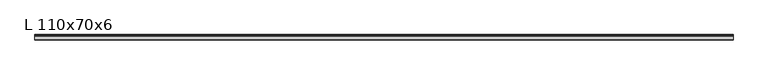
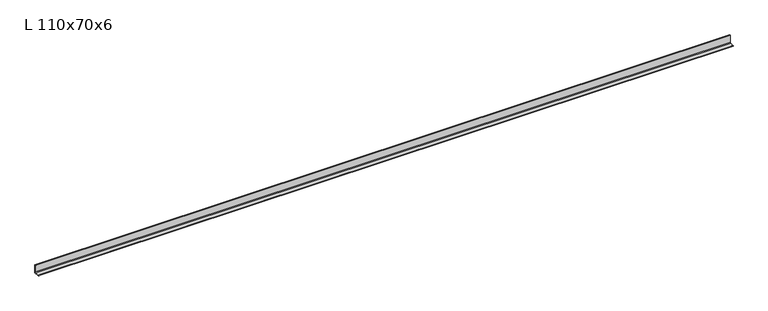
"""IFC4 building model written with IfcOpenShell, lengths in millimetres: beam geometry, Уголок (ГОСТ 8510-86) Балки : L 110x70x6."""

from ifc_helpers import new_model, si_unit, point, frame, frame_2d, origin, place, context, project, spatial, polyline, circle_curve, trimmed, segment, composite_curve, outline, extrude, source, transform, mapped, element, save


def l_110x70x6_272b69ad(model_context):
    return source(origin(), model_context, "Body", "SweptSolid", [
        extrude(outline(composite_curve([segment(polyline([(15.8, -35.5), (-54.2, -35.5), (-54.2, -32.3)]), True, "CONTINUOUS"), segment(trimmed(circle_curve(frame_2d((-50.9, -32.3)), 3.3), [point((-54.2, -32.3))], [point((-50.9, -29.0))], False, "CARTESIAN"), True, "CONTINUOUS"), segment(polyline([(-50.9, -29.0), (-0.7, -29.0)]), True, "CONTINUOUS"), segment(trimmed(circle_curve(frame_2d((-0.7, -19.0)), 10.0), [point((-0.7, -29.0))], [point((9.3, -19.0))], True, "CARTESIAN"), True, "CONTINUOUS"), segment(polyline([(9.3, -19.0), (9.3, 71.2)]), True, "CONTINUOUS"), segment(trimmed(circle_curve(frame_2d((12.6, 71.2)), 3.3), [point((9.3, 71.2))], [point((12.6, 74.5))], False, "CARTESIAN"), True, "CONTINUOUS"), segment(polyline([(12.6, 74.5), (15.8, 74.5), (15.8, -35.5)]), True, "CONTINUOUS")], self_intersect=False)), frame((-4390.0, 0.0, 0.0), z_axis=(1.0, 0.0, 0.0), x_axis=(0.0, 1.0, 0.0)), (0.0, 0.0, 1.0), 8894.0),
    ])


if __name__ == "__main__":
    model = new_model("IFC4")
    model_context = context("Model", 3, world=origin())
    ifc_project = project(units=[si_unit("LENGTHUNIT", "METRE", prefix="MILLI")], contexts=[model_context])
    site = spatial("IfcSite", under=ifc_project)
    building = spatial("IfcBuilding", under=site)
    placement = place(None, origin())
    l_110x70x6_shape = l_110x70x6_272b69ad(model_context)
    element("IfcBeam", 1, ObjectType="Уголок (ГОСТ 8510-86) Балки : L 110x70x6", at=placement, inside=building, context=model_context, shape_type="MappedRepresentation", body=[
        mapped(l_110x70x6_shape, transform((0.0, 0.0, 0.0), x_axis=(1.0, 0.0, 0.0), y_axis=(0.0, 1.0, 0.0), z_axis=(0.0, 0.0, 1.0))),
    ])
    save(model, "model.ifc")
